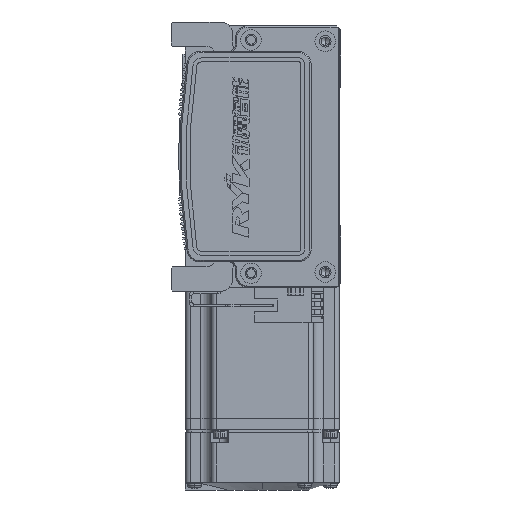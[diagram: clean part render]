
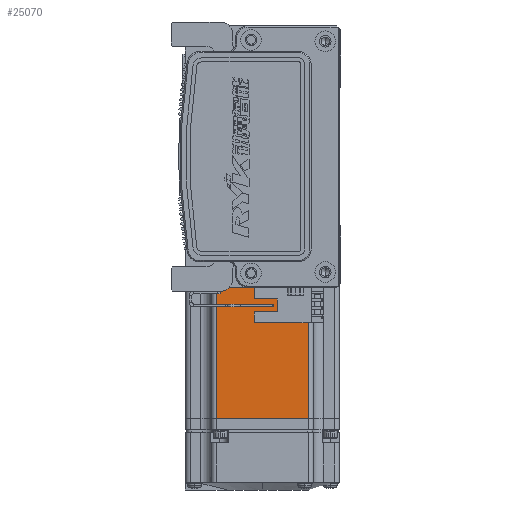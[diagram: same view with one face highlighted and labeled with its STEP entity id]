
A CAD part, left-side view. The second image highlights one B-rep face of the part: STEP entity #25070.
In plain terms, the highlighted planar face has unit normal (-1, 0, 0) as drawn and (0, 0, 1) by its records, which use the part's own axes.
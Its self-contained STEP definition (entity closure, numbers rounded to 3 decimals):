
#314 = CARTESIAN_POINT ( 'NONE',  ( -70.95, -18., 30. ) ) ;
#7726 = CARTESIAN_POINT ( 'NONE',  ( -7.75, 0., 30. ) ) ;
#8056 = CARTESIAN_POINT ( 'NONE',  ( -70.95, 0., 30. ) ) ;
#8550 = DIRECTION ( 'NONE',  ( 1., 0., 0. ) ) ;
#18847 = DIRECTION ( 'NONE',  ( 0., -1., 0. ) ) ;
#19397 = EDGE_CURVE ( 'NONE', #61004, #56207, #62839, .T. ) ;
#19514 = AXIS2_PLACEMENT_3D ( 'NONE', #29080, #65228, #8550 ) ;
#19569 = CARTESIAN_POINT ( 'NONE',  ( -70.95, 18., 30. ) ) ;
#22239 = VECTOR ( 'NONE', #18847, 1000. ) ;
#22660 = EDGE_CURVE ( 'NONE', #42106, #48423, #42112, .T. ) ;
#24535 = EDGE_CURVE ( 'NONE', #42106, #61004, #48354, .T. ) ;
#25070 = ADVANCED_FACE ( 'NONE', ( #43370 ), #39027, .T. ) ;
#28998 = ORIENTED_EDGE ( 'NONE', *, *, #22660, .T. ) ;
#29080 = CARTESIAN_POINT ( 'NONE',  ( -6.5, -25., 30. ) ) ;
#29716 = VECTOR ( 'NONE', #30756, 1000. ) ;
#30756 = DIRECTION ( 'NONE',  ( -1., 0., 0. ) ) ;
#30982 = CARTESIAN_POINT ( 'NONE',  ( -6.5, -18., 30. ) ) ;
#32378 = VECTOR ( 'NONE', #39847, 1000. ) ;
#33550 = EDGE_LOOP ( 'NONE', ( #42543, #28998, #38020, #43445 ) ) ;
#38020 = ORIENTED_EDGE ( 'NONE', *, *, #57126, .T. ) ;
#39027 = PLANE ( 'NONE',  #19514 ) ;
#39847 = DIRECTION ( 'NONE',  ( -1., 0., 0. ) ) ;
#42106 = VERTEX_POINT ( 'NONE', #61588 ) ;
#42112 = LINE ( 'NONE', #60601, #32378 ) ;
#42543 = ORIENTED_EDGE ( 'NONE', *, *, #24535, .F. ) ;
#43370 = FACE_OUTER_BOUND ( 'NONE', #33550, .T. ) ;
#43445 = ORIENTED_EDGE ( 'NONE', *, *, #19397, .F. ) ;
#45839 = CARTESIAN_POINT ( 'NONE',  ( -7.75, -18., 30. ) ) ;
#46719 = VECTOR ( 'NONE', #64622, 1000. ) ;
#48354 = LINE ( 'NONE', #7726, #46719 ) ;
#48423 = VERTEX_POINT ( 'NONE', #19569 ) ;
#56207 = VERTEX_POINT ( 'NONE', #314 ) ;
#57126 = EDGE_CURVE ( 'NONE', #48423, #56207, #65874, .T. ) ;
#60601 = CARTESIAN_POINT ( 'NONE',  ( -6.5, 18., 30. ) ) ;
#61004 = VERTEX_POINT ( 'NONE', #45839 ) ;
#61588 = CARTESIAN_POINT ( 'NONE',  ( -7.75, 18., 30. ) ) ;
#62839 = LINE ( 'NONE', #30982, #29716 ) ;
#64622 = DIRECTION ( 'NONE',  ( 0., -1., 0. ) ) ;
#65228 = DIRECTION ( 'NONE',  ( 0., 0., 1. ) ) ;
#65874 = LINE ( 'NONE', #8056, #22239 ) ;
